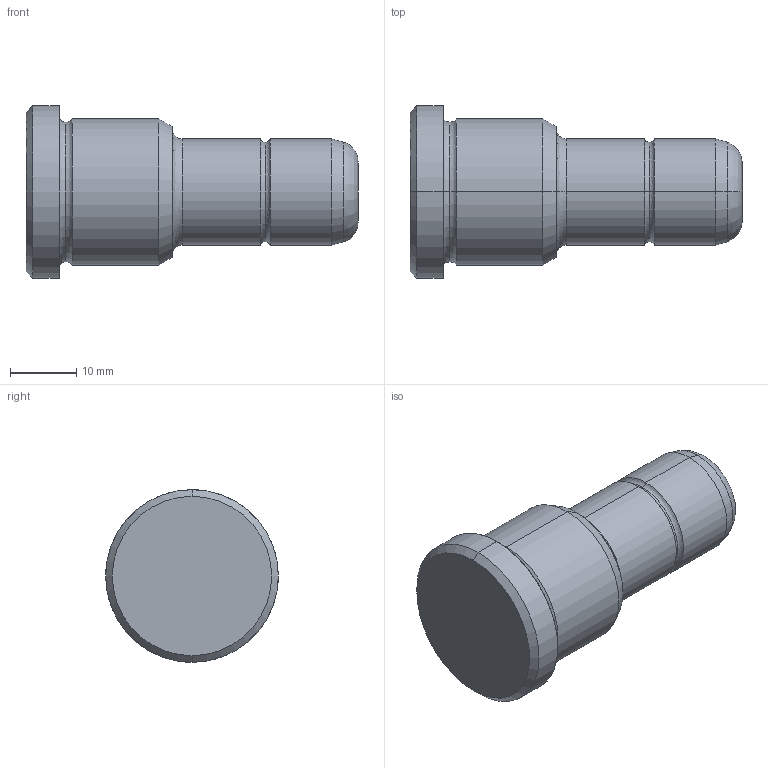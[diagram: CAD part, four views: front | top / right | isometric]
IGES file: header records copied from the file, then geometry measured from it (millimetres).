
Start section: START RECORD GO HERE.
Global section: file name: 351-16X22X50.igs; native system: DASSAULT SYSTEMES CATIA V5 R20 - www.3ds.com; preprocessor: CATIA Version 5 Release 20 ; author: Utente; organization: NB04-ASUS; date: 20210818.125945; units: millimetre
Bounding box: 50 x 26 x 26 mm (x, y, z)
Surface area: 3855.8 mm2 (no closed solid volume)
Topology: 0 solids, 0 shells, 30 faces, 172 edges, 172 vertices
Faces by surface type: revolution 26, plane 4
